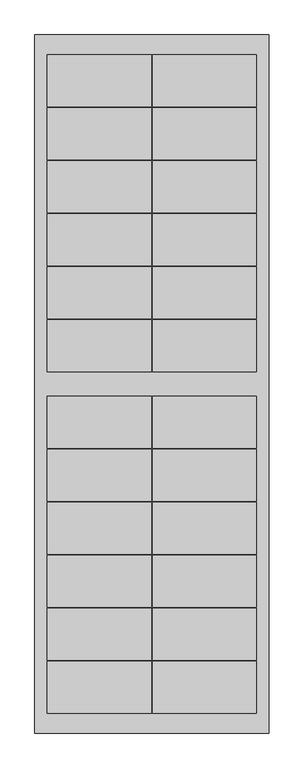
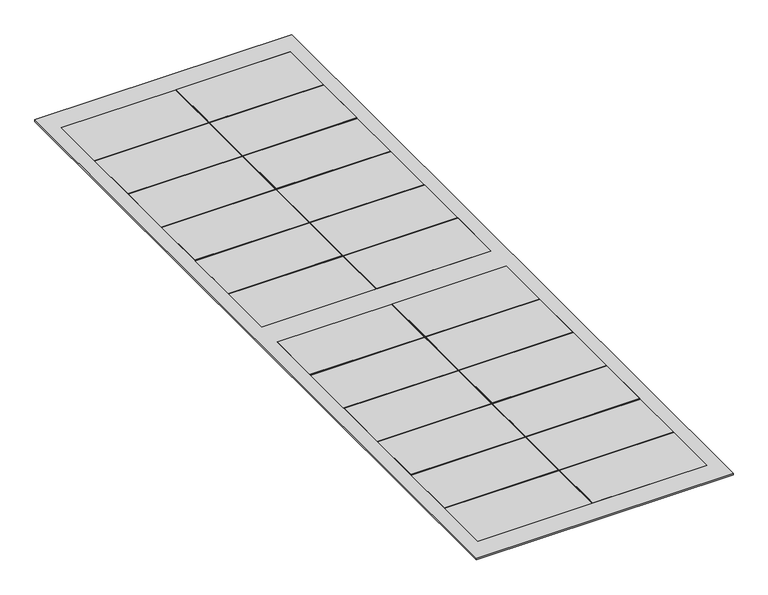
"""IFC4 building model written with IfcOpenShell, lengths in millimetres: proxy geometry, Construction-Roof_Roofit-Solar_nu-click-t-2x18-120 : NuClick T-2x12/120."""

from ifc_helpers import new_model, si_unit, origin, origin_with_axes, place, context, project, spatial, polyline, outline, extrude, source, transform, mapped, element, save


def specialty_equipment_8a7c9f69(model_context):
    return source(origin(), model_context, "Body", "SweptSolid", [
        extrude(outline(polyline([(-211.2, 559.5), (-211.2, 664.5), (-1.0, 664.5), (-1.0, 559.5), (-211.2, 559.5)])), origin_with_axes(), (0.0, 0.0, 1.0), 3.2),
        extrude(outline(polyline([(1.0, 559.5), (1.0, 664.5), (211.2, 664.5), (211.2, 559.5), (1.0, 559.5)])), origin_with_axes(), (0.0, 0.0, 1.0), 3.2),
        extrude(outline(polyline([(-1.0, 557.5), (-1.0, 452.5), (-211.2, 452.5), (-211.2, 557.5), (-1.0, 557.5)])), origin_with_axes(), (0.0, 0.0, 1.0), 3.2),
        extrude(outline(polyline([(211.2, 557.5), (211.2, 452.5), (1.0, 452.5), (1.0, 557.5), (211.2, 557.5)])), origin_with_axes(), (0.0, 0.0, 1.0), 3.2),
        extrude(outline(polyline([(-211.2, 345.5), (-211.2, 450.5), (-1.0, 450.5), (-1.0, 345.5), (-211.2, 345.5)])), origin_with_axes(), (0.0, 0.0, 1.0), 3.2),
        extrude(outline(polyline([(1.0, 345.5), (1.0, 450.5), (211.2, 450.5), (211.2, 345.5), (1.0, 345.5)])), origin_with_axes(), (0.0, 0.0, 1.0), 3.2),
        extrude(outline(polyline([(-1.0, 343.5), (-1.0, 238.5), (-211.2, 238.5), (-211.2, 343.5), (-1.0, 343.5)])), origin_with_axes(), (0.0, 0.0, 1.0), 3.2),
        extrude(outline(polyline([(211.2, 343.5), (211.2, 238.5), (1.0, 238.5), (1.0, 343.5), (211.2, 343.5)])), origin_with_axes(), (0.0, 0.0, 1.0), 3.2),
        extrude(outline(polyline([(-1.0, 236.5), (-1.0, 131.5), (-211.2, 131.5), (-211.2, 236.5), (-1.0, 236.5)])), origin_with_axes(), (0.0, 0.0, 1.0), 3.2),
        extrude(outline(polyline([(211.2, 236.5), (211.2, 131.5), (1.0, 131.5), (1.0, 236.5), (211.2, 236.5)])), origin_with_axes(), (0.0, 0.0, 1.0), 3.2),
        extrude(outline(polyline([(211.2, 129.5), (211.2, 24.5), (1.0, 24.5), (1.0, 129.5), (211.2, 129.5)])), origin_with_axes(), (0.0, 0.0, 1.0), 3.2),
        extrude(outline(polyline([(-1.0, 129.5), (-1.0, 24.5), (-211.2, 24.5), (-211.2, 129.5), (-1.0, 129.5)])), origin_with_axes(), (0.0, 0.0, 1.0), 3.2),
        extrude(outline(polyline([(-1.0, -24.5), (-1.0, -129.5), (-211.2, -129.5), (-211.2, -24.5), (-1.0, -24.5)])), origin_with_axes(), (0.0, 0.0, 1.0), 3.2),
        extrude(outline(polyline([(211.2, -24.5), (211.2, -129.5), (1.0, -129.5), (1.0, -24.5), (211.2, -24.5)])), origin_with_axes(), (0.0, 0.0, 1.0), 3.2),
        extrude(outline(polyline([(-1.0, -131.5), (-1.0, -236.5), (-211.2, -236.5), (-211.2, -131.5), (-1.0, -131.5)])), origin_with_axes(), (0.0, 0.0, 1.0), 3.2),
        extrude(outline(polyline([(211.2, -131.5), (211.2, -236.5), (1.0, -236.5), (1.0, -131.5), (211.2, -131.5)])), origin_with_axes(), (0.0, 0.0, 1.0), 3.2),
        extrude(outline(polyline([(-1.0, -238.5), (-1.0, -343.5), (-211.2, -343.5), (-211.2, -238.5), (-1.0, -238.5)])), origin_with_axes(), (0.0, 0.0, 1.0), 3.2),
        extrude(outline(polyline([(211.2, -238.5), (211.2, -343.5), (1.0, -343.5), (1.0, -238.5), (211.2, -238.5)])), origin_with_axes(), (0.0, 0.0, 1.0), 3.2),
        extrude(outline(polyline([(-1.0, -345.5), (-1.0, -450.5), (-211.2, -450.5), (-211.2, -345.5), (-1.0, -345.5)])), origin_with_axes(), (0.0, 0.0, 1.0), 3.2),
        extrude(outline(polyline([(211.2, -345.5), (211.2, -450.5), (1.0, -450.5), (1.0, -345.5), (211.2, -345.5)])), origin_with_axes(), (0.0, 0.0, 1.0), 3.2),
        extrude(outline(polyline([(-1.0, -452.5), (-1.0, -557.5), (-211.2, -557.5), (-211.2, -452.5), (-1.0, -452.5)])), origin_with_axes(), (0.0, 0.0, 1.0), 3.2),
        extrude(outline(polyline([(211.2, -452.5), (211.2, -557.5), (1.0, -557.5), (1.0, -452.5), (211.2, -452.5)])), origin_with_axes(), (0.0, 0.0, 1.0), 3.2),
        extrude(outline(polyline([(-1.0, -559.5), (-1.0, -664.5), (-211.2, -664.5), (-211.2, -559.5), (-1.0, -559.5)])), origin_with_axes(), (0.0, 0.0, 1.0), 3.2),
        extrude(outline(polyline([(211.2, -559.5), (211.2, -664.5), (1.0, -664.5), (1.0, -559.5), (211.2, -559.5)])), origin_with_axes(), (0.0, 0.0, 1.0), 3.2),
        extrude(outline(polyline([(236.5, 704.5), (236.5, -704.5), (-236.5, -704.5), (-236.5, 704.5), (236.5, 704.5)]), holes=[polyline([(1.0, 559.5), (211.2, 559.5), (211.2, 664.5), (1.0, 664.5), (1.0, 559.5)]), polyline([(-1.0, 664.5), (-211.2, 664.5), (-211.2, 559.5), (-1.0, 559.5), (-1.0, 664.5)]), polyline([(1.0, 452.5), (211.2, 452.5), (211.2, 557.5), (1.0, 557.5), (1.0, 452.5)]), polyline([(-1.0, 557.5), (-211.2, 557.5), (-211.2, 452.5), (-1.0, 452.5), (-1.0, 557.5)]), polyline([(1.0, 345.5), (211.2, 345.5), (211.2, 450.5), (1.0, 450.5), (1.0, 345.5)]), polyline([(-1.0, 450.5), (-211.2, 450.5), (-211.2, 345.5), (-1.0, 345.5), (-1.0, 450.5)]), polyline([(1.0, 238.5), (211.2, 238.5), (211.2, 343.5), (1.0, 343.5), (1.0, 238.5)]), polyline([(-1.0, 343.5), (-211.2, 343.5), (-211.2, 238.5), (-1.0, 238.5), (-1.0, 343.5)]), polyline([(1.0, 131.5), (211.2, 131.5), (211.2, 236.5), (1.0, 236.5), (1.0, 131.5)]), polyline([(-1.0, 236.5), (-211.2, 236.5), (-211.2, 131.5), (-1.0, 131.5), (-1.0, 236.5)]), polyline([(1.0, 24.5), (211.2, 24.5), (211.2, 129.5), (1.0, 129.5), (1.0, 24.5)]), polyline([(-1.0, 129.5), (-211.2, 129.5), (-211.2, 24.5), (-1.0, 24.5), (-1.0, 129.5)]), polyline([(-1.0, -24.5), (-211.2, -24.5), (-211.2, -129.5), (-1.0, -129.5), (-1.0, -24.5)]), polyline([(1.0, -129.5), (211.2, -129.5), (211.2, -24.5), (1.0, -24.5), (1.0, -129.5)]), polyline([(-1.0, -131.5), (-211.2, -131.5), (-211.2, -236.5), (-1.0, -236.5), (-1.0, -131.5)]), polyline([(1.0, -236.5), (211.2, -236.5), (211.2, -131.5), (1.0, -131.5), (1.0, -236.5)]), polyline([(-1.0, -238.5), (-211.2, -238.5), (-211.2, -343.5), (-1.0, -343.5), (-1.0, -238.5)]), polyline([(1.0, -343.5), (211.2, -343.5), (211.2, -238.5), (1.0, -238.5), (1.0, -343.5)]), polyline([(-1.0, -345.5), (-211.2, -345.5), (-211.2, -450.5), (-1.0, -450.5), (-1.0, -345.5)]), polyline([(1.0, -450.5), (211.2, -450.5), (211.2, -345.5), (1.0, -345.5), (1.0, -450.5)]), polyline([(-1.0, -452.5), (-211.2, -452.5), (-211.2, -557.5), (-1.0, -557.5), (-1.0, -452.5)]), polyline([(1.0, -557.5), (211.2, -557.5), (211.2, -452.5), (1.0, -452.5), (1.0, -557.5)]), polyline([(-1.0, -559.5), (-211.2, -559.5), (-211.2, -664.5), (-1.0, -664.5), (-1.0, -559.5)]), polyline([(1.0, -664.5), (211.2, -664.5), (211.2, -559.5), (1.0, -559.5), (1.0, -664.5)])]), origin_with_axes(), (0.0, 0.0, 1.0), 3.2),
    ])


if __name__ == "__main__":
    model = new_model("IFC4")
    model_context = context("Model", 3, world=origin())
    ifc_project = project(units=[si_unit("LENGTHUNIT", "METRE", prefix="MILLI")], contexts=[model_context])
    site = spatial("IfcSite", under=ifc_project)
    building = spatial("IfcBuilding", under=site)
    placement = place(None, origin())
    specialty_equipment_shape = specialty_equipment_8a7c9f69(model_context)
    element("IfcBuildingElementProxy", 1, Name="Construction-Roof_Roofit-Solar_nu-click-t-2x18-120 : NuClick T-2x12/120", ObjectType="Construction-Roof_Roofit-Solar_nu-click-t-2x18-120 : NuClick T-2x12/120", at=placement, inside=building, context=model_context, shape_type="MappedRepresentation", body=[
        mapped(specialty_equipment_shape, transform((0.0, 0.0, 0.0), x_axis=(1.0, 0.0, 0.0), y_axis=(0.0, 1.0, 0.0), z_axis=(0.0, 0.0, 1.0))),
    ])
    save(model, "model.ifc")
